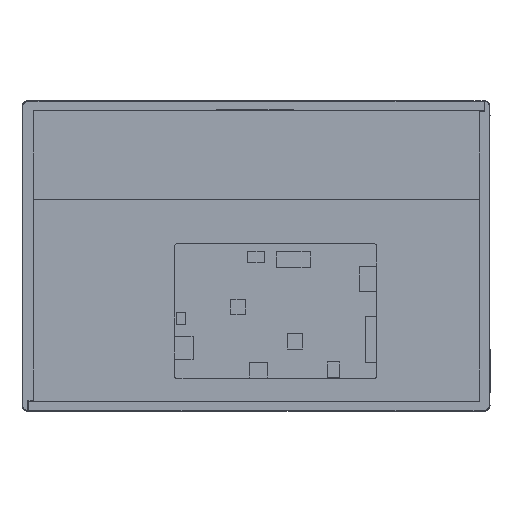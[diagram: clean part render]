
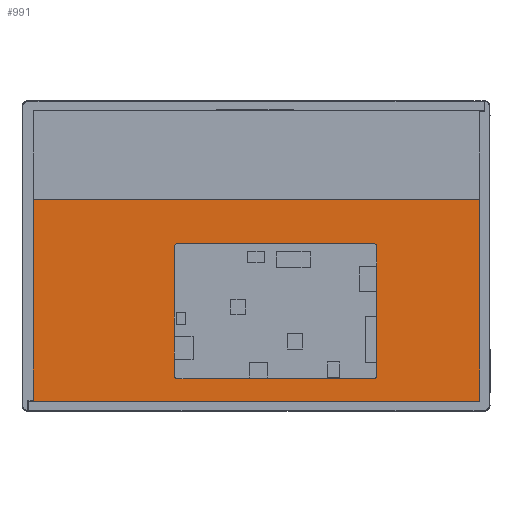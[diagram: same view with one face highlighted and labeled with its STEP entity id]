
A CAD part, top view. The second image highlights one B-rep face of the part: STEP entity #991.
In plain terms, the highlighted planar face has unit normal (0, 0, 1).
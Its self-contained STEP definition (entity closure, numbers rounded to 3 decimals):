
#166=B_SPLINE_CURVE_WITH_KNOTS('',3,(#4002,#4003,#4004,#4005),
 .UNSPECIFIED.,.F.,.F.,(4,4),(0.,1.),.UNSPECIFIED.);
#170=B_SPLINE_CURVE_WITH_KNOTS('',3,(#4026,#4027,#4028,#4029),
 .UNSPECIFIED.,.F.,.F.,(4,4),(0.,1.),.UNSPECIFIED.);
#173=B_SPLINE_CURVE_WITH_KNOTS('',3,(#4041,#4042,#4043,#4044),
 .UNSPECIFIED.,.F.,.F.,(4,4),(0.,1.),.UNSPECIFIED.);
#991=ADVANCED_FACE('',(#1251),#1122,.F.);
#1122=PLANE('',#2911);
#1251=FACE_OUTER_BOUND('',#1392,.T.);
#1392=EDGE_LOOP('',(#1781,#1782,#1783,#1784));
#1781=ORIENTED_EDGE('',*,*,#2403,.F.);
#1782=ORIENTED_EDGE('',*,*,#2418,.T.);
#1783=ORIENTED_EDGE('',*,*,#2421,.T.);
#1784=ORIENTED_EDGE('',*,*,#2412,.T.);
#2156=VERTEX_POINT('',#3968);
#2157=VERTEX_POINT('',#3970);
#2164=VERTEX_POINT('',#4006);
#2168=VERTEX_POINT('',#4025);
#2403=EDGE_CURVE('',#2156,#2157,#2650,.T.);
#2412=EDGE_CURVE('',#2164,#2157,#166,.T.);
#2418=EDGE_CURVE('',#2156,#2168,#170,.T.);
#2421=EDGE_CURVE('',#2168,#2164,#173,.T.);
#2650=LINE('',#3969,#2796);
#2796=VECTOR('',#3182,1.);
#2911=AXIS2_PLACEMENT_3D('',#4046,#3202,#3203);
#3182=DIRECTION('',(1.,0.,0.));
#3202=DIRECTION('',(0.,0.,-1.));
#3203=DIRECTION('',(-1.,0.,0.));
#3968=CARTESIAN_POINT('',(3095.898,240.314,-1.8));
#3969=CARTESIAN_POINT('',(3373.598,240.314,-1.8));
#3970=CARTESIAN_POINT('',(3373.598,240.314,-1.8));
#4002=CARTESIAN_POINT('',(3373.598,114.714,-1.8));
#4003=CARTESIAN_POINT('',(3373.598,174.914,-1.8));
#4004=CARTESIAN_POINT('',(3373.598,235.114,-1.8));
#4005=CARTESIAN_POINT('',(3373.598,295.314,-1.8));
#4006=CARTESIAN_POINT('',(3373.598,114.714,-1.8));
#4025=CARTESIAN_POINT('',(3095.898,114.714,-1.8));
#4026=CARTESIAN_POINT('',(3095.898,295.314,-1.8));
#4027=CARTESIAN_POINT('',(3095.898,235.114,-1.8));
#4028=CARTESIAN_POINT('',(3095.898,174.914,-1.8));
#4029=CARTESIAN_POINT('',(3095.898,114.714,-1.8));
#4041=CARTESIAN_POINT('',(3095.898,114.714,-1.8));
#4042=CARTESIAN_POINT('',(3188.465,114.714,-1.8));
#4043=CARTESIAN_POINT('',(3281.032,114.714,-1.8));
#4044=CARTESIAN_POINT('',(3373.598,114.714,-1.8));
#4046=CARTESIAN_POINT('',(3234.748,295.314,-1.8));
